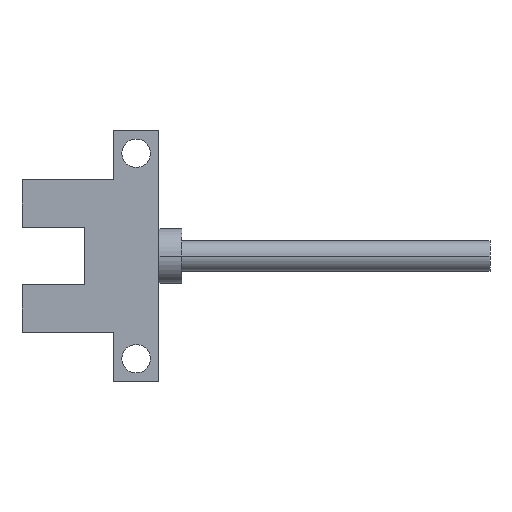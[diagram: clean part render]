
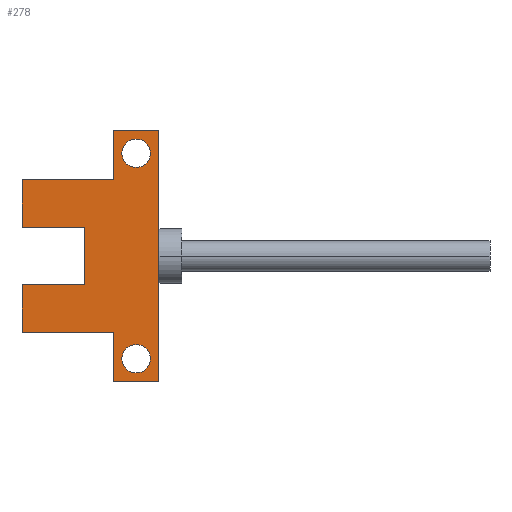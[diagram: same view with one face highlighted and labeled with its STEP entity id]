
A CAD part, front view. The second image highlights one B-rep face of the part: STEP entity #278.
In plain terms, the highlighted planar face has unit normal (0, -1, 0) as drawn and (0, 0, -1) by its records, which use the part's own axes.
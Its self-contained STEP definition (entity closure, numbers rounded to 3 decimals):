
#141 = EDGE_CURVE ( 'NONE', #142, #143, #578, .T. ) ;
#142 = VERTEX_POINT ( 'NONE', #630 ) ;
#143 = VERTEX_POINT ( 'NONE', #629 ) ;
#149 = EDGE_CURVE ( 'NONE', #150, #157, #621, .T. ) ;
#150 = VERTEX_POINT ( 'NONE', #612 ) ;
#157 = VERTEX_POINT ( 'NONE', #664 ) ;
#202 = VERTEX_POINT ( 'NONE', #705 ) ;
#207 = EDGE_CURVE ( 'NONE', #208, #209, #763, .T. ) ;
#208 = VERTEX_POINT ( 'NONE', #759 ) ;
#209 = VERTEX_POINT ( 'NONE', #758 ) ;
#210 = ORIENTED_EDGE ( 'NONE', *, *, #211, .T. ) ;
#211 = EDGE_CURVE ( 'NONE', #209, #202, #757, .T. ) ;
#224 = VERTEX_POINT ( 'NONE', #739 ) ;
#225 = VERTEX_POINT ( 'NONE', #798 ) ;
#231 = EDGE_CURVE ( 'NONE', #224, #225, #785, .T. ) ;
#278 = ADVANCED_FACE ( 'NONE', ( #814, #813, #812 ), #811, .T. ) ;
#279 = EDGE_LOOP ( 'NONE', ( #280, #210, #439, #333, #329, #432, #434, #435, #430, #335, #420, #448 ) ) ;
#280 = ORIENTED_EDGE ( 'NONE', *, *, #207, .T. ) ;
#321 = EDGE_CURVE ( 'NONE', #143, #142, #863, .T. ) ;
#322 = ORIENTED_EDGE ( 'NONE', *, *, #141, .T. ) ;
#323 = EDGE_LOOP ( 'NONE', ( #324, #325 ) ) ;
#324 = ORIENTED_EDGE ( 'NONE', *, *, #149, .F. ) ;
#325 = ORIENTED_EDGE ( 'NONE', *, *, #326, .F. ) ;
#326 = EDGE_CURVE ( 'NONE', #157, #150, #858, .T. ) ;
#329 = ORIENTED_EDGE ( 'NONE', *, *, #330, .T. ) ;
#330 = EDGE_CURVE ( 'NONE', #438, #331, #845, .T. ) ;
#331 = VERTEX_POINT ( 'NONE', #841 ) ;
#332 = EDGE_CURVE ( 'NONE', #202, #436, #840, .T. ) ;
#333 = ORIENTED_EDGE ( 'NONE', *, *, #440, .T. ) ;
#334 = VERTEX_POINT ( 'NONE', #836 ) ;
#335 = ORIENTED_EDGE ( 'NONE', *, *, #418, .T. ) ;
#418 = EDGE_CURVE ( 'NONE', #334, #419, #976, .T. ) ;
#419 = VERTEX_POINT ( 'NONE', #972 ) ;
#420 = ORIENTED_EDGE ( 'NONE', *, *, #446, .F. ) ;
#429 = EDGE_CURVE ( 'NONE', #437, #224, #1022, .T. ) ;
#430 = ORIENTED_EDGE ( 'NONE', *, *, #431, .T. ) ;
#431 = EDGE_CURVE ( 'NONE', #437, #334, #1018, .T. ) ;
#432 = ORIENTED_EDGE ( 'NONE', *, *, #433, .T. ) ;
#433 = EDGE_CURVE ( 'NONE', #331, #225, #1014, .T. ) ;
#434 = ORIENTED_EDGE ( 'NONE', *, *, #231, .F. ) ;
#435 = ORIENTED_EDGE ( 'NONE', *, *, #429, .F. ) ;
#436 = VERTEX_POINT ( 'NONE', #1010 ) ;
#437 = VERTEX_POINT ( 'NONE', #1009 ) ;
#438 = VERTEX_POINT ( 'NONE', #1008 ) ;
#439 = ORIENTED_EDGE ( 'NONE', *, *, #332, .T. ) ;
#440 = EDGE_CURVE ( 'NONE', #436, #438, #1007, .T. ) ;
#446 = EDGE_CURVE ( 'NONE', #447, #419, #1057, .T. ) ;
#447 = VERTEX_POINT ( 'NONE', #1053 ) ;
#448 = ORIENTED_EDGE ( 'NONE', *, *, #449, .T. ) ;
#449 = EDGE_CURVE ( 'NONE', #447, #208, #1052, .T. ) ;
#450 = EDGE_LOOP ( 'NONE', ( #451, #322 ) ) ;
#451 = ORIENTED_EDGE ( 'NONE', *, *, #321, .T. ) ;
#578 = CIRCLE ( 'NONE', #634, 1.25 ) ;
#612 = CARTESIAN_POINT ( 'NONE',  ( 10.25, 2., -3. ) ) ;
#613 = DIRECTION ( 'NONE',  ( -1., 0., 0. ) ) ;
#614 = DIRECTION ( 'NONE',  ( 0., 0., -1. ) ) ;
#615 = CARTESIAN_POINT ( 'NONE',  ( 9., 2., -3. ) ) ;
#616 = AXIS2_PLACEMENT_3D ( 'NONE', #615, #614, #613 ) ;
#621 = CIRCLE ( 'NONE', #616, 1.25 ) ;
#629 = CARTESIAN_POINT ( 'NONE',  ( -7.75, 2., -3. ) ) ;
#630 = CARTESIAN_POINT ( 'NONE',  ( -10.25, 2., -3. ) ) ;
#631 = DIRECTION ( 'NONE',  ( 1., 0., 0. ) ) ;
#632 = DIRECTION ( 'NONE',  ( 0., 0., 1. ) ) ;
#633 = CARTESIAN_POINT ( 'NONE',  ( -9., 2., -3. ) ) ;
#634 = AXIS2_PLACEMENT_3D ( 'NONE', #633, #632, #631 ) ;
#664 = CARTESIAN_POINT ( 'NONE',  ( 7.75, 2., -3. ) ) ;
#705 = CARTESIAN_POINT ( 'NONE',  ( 2.5, 12., -3. ) ) ;
#739 = CARTESIAN_POINT ( 'NONE',  ( -11., 0., -3. ) ) ;
#754 = DIRECTION ( 'NONE',  ( 0., 1., 0. ) ) ;
#755 = VECTOR ( 'NONE', #754, 1000. ) ;
#756 = CARTESIAN_POINT ( 'NONE',  ( 2.5, 0., -3. ) ) ;
#757 = LINE ( 'NONE', #756, #755 ) ;
#758 = CARTESIAN_POINT ( 'NONE',  ( 2.5, 6.5, -3. ) ) ;
#759 = CARTESIAN_POINT ( 'NONE',  ( -2.5, 6.5, -3. ) ) ;
#760 = DIRECTION ( 'NONE',  ( 1., 0., 0. ) ) ;
#761 = VECTOR ( 'NONE', #760, 1000. ) ;
#762 = CARTESIAN_POINT ( 'NONE',  ( 0., 6.5, -3. ) ) ;
#763 = LINE ( 'NONE', #762, #761 ) ;
#782 = DIRECTION ( 'NONE',  ( 1., 0., 0. ) ) ;
#783 = VECTOR ( 'NONE', #782, 1000. ) ;
#784 = CARTESIAN_POINT ( 'NONE',  ( -11., 0., -3. ) ) ;
#785 = LINE ( 'NONE', #784, #783 ) ;
#798 = CARTESIAN_POINT ( 'NONE',  ( 11., 0., -3. ) ) ;
#807 = DIRECTION ( 'NONE',  ( -1., 0., 0. ) ) ;
#808 = DIRECTION ( 'NONE',  ( 0., 0., -1. ) ) ;
#809 = CARTESIAN_POINT ( 'NONE',  ( -11., 0., -3. ) ) ;
#810 = AXIS2_PLACEMENT_3D ( 'NONE', #809, #808, #807 ) ;
#811 = PLANE ( 'NONE',  #810 ) ;
#812 = FACE_BOUND ( 'NONE', #323, .T. ) ;
#813 = FACE_BOUND ( 'NONE', #450, .T. ) ;
#814 = FACE_OUTER_BOUND ( 'NONE', #279, .T. ) ;
#836 = CARTESIAN_POINT ( 'NONE',  ( -6.7, 4., -3. ) ) ;
#837 = DIRECTION ( 'NONE',  ( 1., 0., 0. ) ) ;
#838 = VECTOR ( 'NONE', #837, 1000. ) ;
#839 = CARTESIAN_POINT ( 'NONE',  ( 11., 12., -3. ) ) ;
#840 = LINE ( 'NONE', #839, #838 ) ;
#841 = CARTESIAN_POINT ( 'NONE',  ( 11., 4., -3. ) ) ;
#842 = DIRECTION ( 'NONE',  ( 1., 0., 0. ) ) ;
#843 = VECTOR ( 'NONE', #842, 1000. ) ;
#844 = CARTESIAN_POINT ( 'NONE',  ( -11., 4., -3. ) ) ;
#845 = LINE ( 'NONE', #844, #843 ) ;
#854 = DIRECTION ( 'NONE',  ( -1., 0., 0. ) ) ;
#855 = DIRECTION ( 'NONE',  ( 0., 0., -1. ) ) ;
#856 = CARTESIAN_POINT ( 'NONE',  ( 9., 2., -3. ) ) ;
#857 = AXIS2_PLACEMENT_3D ( 'NONE', #856, #855, #854 ) ;
#858 = CIRCLE ( 'NONE', #857, 1.25 ) ;
#859 = DIRECTION ( 'NONE',  ( 1., 0., 0. ) ) ;
#860 = DIRECTION ( 'NONE',  ( 0., 0., 1. ) ) ;
#861 = CARTESIAN_POINT ( 'NONE',  ( -9., 2., -3. ) ) ;
#862 = AXIS2_PLACEMENT_3D ( 'NONE', #861, #860, #859 ) ;
#863 = CIRCLE ( 'NONE', #862, 1.25 ) ;
#972 = CARTESIAN_POINT ( 'NONE',  ( -6.7, 12., -3. ) ) ;
#973 = DIRECTION ( 'NONE',  ( 0., 1., 0. ) ) ;
#974 = VECTOR ( 'NONE', #973, 1000. ) ;
#975 = CARTESIAN_POINT ( 'NONE',  ( -6.7, 12., -3. ) ) ;
#976 = LINE ( 'NONE', #975, #974 ) ;
#1004 = DIRECTION ( 'NONE',  ( 0., -1., 0. ) ) ;
#1005 = VECTOR ( 'NONE', #1004, 1000. ) ;
#1006 = CARTESIAN_POINT ( 'NONE',  ( 6.7, 0., -3. ) ) ;
#1007 = LINE ( 'NONE', #1006, #1005 ) ;
#1008 = CARTESIAN_POINT ( 'NONE',  ( 6.7, 4., -3. ) ) ;
#1009 = CARTESIAN_POINT ( 'NONE',  ( -11., 4., -3. ) ) ;
#1010 = CARTESIAN_POINT ( 'NONE',  ( 6.7, 12., -3. ) ) ;
#1011 = DIRECTION ( 'NONE',  ( 0., -1., 0. ) ) ;
#1012 = VECTOR ( 'NONE', #1011, 1000. ) ;
#1013 = CARTESIAN_POINT ( 'NONE',  ( 11., 0., -3. ) ) ;
#1014 = LINE ( 'NONE', #1013, #1012 ) ;
#1015 = DIRECTION ( 'NONE',  ( 1., 0., 0. ) ) ;
#1016 = VECTOR ( 'NONE', #1015, 1000. ) ;
#1017 = CARTESIAN_POINT ( 'NONE',  ( -11., 4., -3. ) ) ;
#1018 = LINE ( 'NONE', #1017, #1016 ) ;
#1019 = DIRECTION ( 'NONE',  ( 0., -1., 0. ) ) ;
#1020 = VECTOR ( 'NONE', #1019, 1000. ) ;
#1021 = CARTESIAN_POINT ( 'NONE',  ( -11., 0., -3. ) ) ;
#1022 = LINE ( 'NONE', #1021, #1020 ) ;
#1049 = DIRECTION ( 'NONE',  ( 0., -1., 0. ) ) ;
#1050 = VECTOR ( 'NONE', #1049, 1000. ) ;
#1051 = CARTESIAN_POINT ( 'NONE',  ( -2.5, 12., -3. ) ) ;
#1052 = LINE ( 'NONE', #1051, #1050 ) ;
#1053 = CARTESIAN_POINT ( 'NONE',  ( -2.5, 12., -3. ) ) ;
#1054 = DIRECTION ( 'NONE',  ( -1., 0., 0. ) ) ;
#1055 = VECTOR ( 'NONE', #1054, 1000. ) ;
#1056 = CARTESIAN_POINT ( 'NONE',  ( -11., 12., -3. ) ) ;
#1057 = LINE ( 'NONE', #1056, #1055 ) ;
